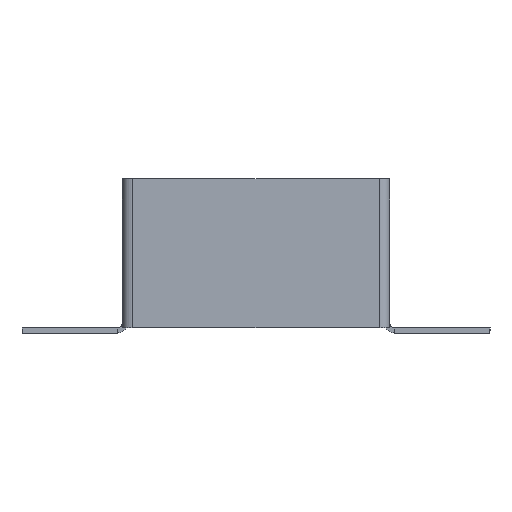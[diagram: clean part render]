
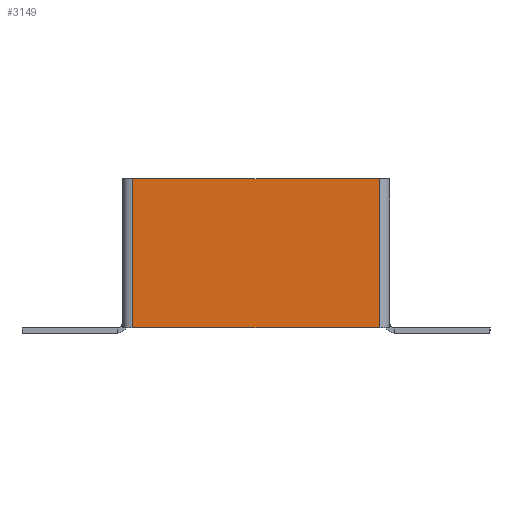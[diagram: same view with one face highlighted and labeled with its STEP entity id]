
A CAD part, front view. The second image highlights one B-rep face of the part: STEP entity #3149.
In plain terms, the highlighted planar face has unit normal (0, -1, 0).
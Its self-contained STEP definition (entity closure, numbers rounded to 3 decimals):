
#300 = DIRECTION ( 'NONE',  ( 0., 0., -1. ) ) ;
#336 = EDGE_CURVE ( 'NONE', #4769, #2685, #1945, .T. ) ;
#405 = VECTOR ( 'NONE', #2726, 1000. ) ;
#567 = CARTESIAN_POINT ( 'NONE',  ( -48., -2., -58. ) ) ;
#698 = PLANE ( 'NONE',  #5754 ) ;
#1275 = EDGE_CURVE ( 'NONE', #4769, #3083, #4877, .T. ) ;
#1519 = EDGE_CURVE ( 'NONE', #4785, #3083, #7394, .T. ) ;
#1530 = EDGE_CURVE ( 'NONE', #4785, #2685, #1556, .T. ) ;
#1556 = LINE ( 'NONE', #3056, #7966 ) ;
#1676 = CARTESIAN_POINT ( 'NONE',  ( -48., -2., 0. ) ) ;
#1945 = LINE ( 'NONE', #3938, #405 ) ;
#2567 = DIRECTION ( 'NONE',  ( 0., 0., 1. ) ) ;
#2685 = VERTEX_POINT ( 'NONE', #7123 ) ;
#2726 = DIRECTION ( 'NONE',  ( 1., 0., 0. ) ) ;
#3006 = DIRECTION ( 'NONE',  ( -1., 0., 0. ) ) ;
#3056 = CARTESIAN_POINT ( 'NONE',  ( 48., -2., -58. ) ) ;
#3080 = CARTESIAN_POINT ( 'NONE',  ( -50., -2., -58. ) ) ;
#3083 = VERTEX_POINT ( 'NONE', #567 ) ;
#3149 = ADVANCED_FACE ( 'NONE', ( #4338 ), #698, .F. ) ;
#3309 = VECTOR ( 'NONE', #300, 1000. ) ;
#3805 = DIRECTION ( 'NONE',  ( 0., 0., 1. ) ) ;
#3938 = CARTESIAN_POINT ( 'NONE',  ( -50., -2., 0. ) ) ;
#4338 = FACE_OUTER_BOUND ( 'NONE', #7292, .T. ) ;
#4769 = VERTEX_POINT ( 'NONE', #1676 ) ;
#4785 = VERTEX_POINT ( 'NONE', #6469 ) ;
#4877 = LINE ( 'NONE', #6524, #3309 ) ;
#5161 = ORIENTED_EDGE ( 'NONE', *, *, #1275, .T. ) ;
#5294 = ORIENTED_EDGE ( 'NONE', *, *, #1519, .F. ) ;
#5562 = ORIENTED_EDGE ( 'NONE', *, *, #336, .F. ) ;
#5612 = ORIENTED_EDGE ( 'NONE', *, *, #1530, .T. ) ;
#5753 = VECTOR ( 'NONE', #3006, 1000. ) ;
#5754 = AXIS2_PLACEMENT_3D ( 'NONE', #6274, #6301, #2567 ) ;
#6274 = CARTESIAN_POINT ( 'NONE',  ( 0., -2., 0. ) ) ;
#6301 = DIRECTION ( 'NONE',  ( 0., 1., 0. ) ) ;
#6469 = CARTESIAN_POINT ( 'NONE',  ( 48., -2., -58. ) ) ;
#6524 = CARTESIAN_POINT ( 'NONE',  ( -48., -2., 0. ) ) ;
#7123 = CARTESIAN_POINT ( 'NONE',  ( 48., -2., 0. ) ) ;
#7292 = EDGE_LOOP ( 'NONE', ( #5161, #5294, #5612, #5562 ) ) ;
#7394 = LINE ( 'NONE', #3080, #5753 ) ;
#7966 = VECTOR ( 'NONE', #3805, 1000. ) ;
